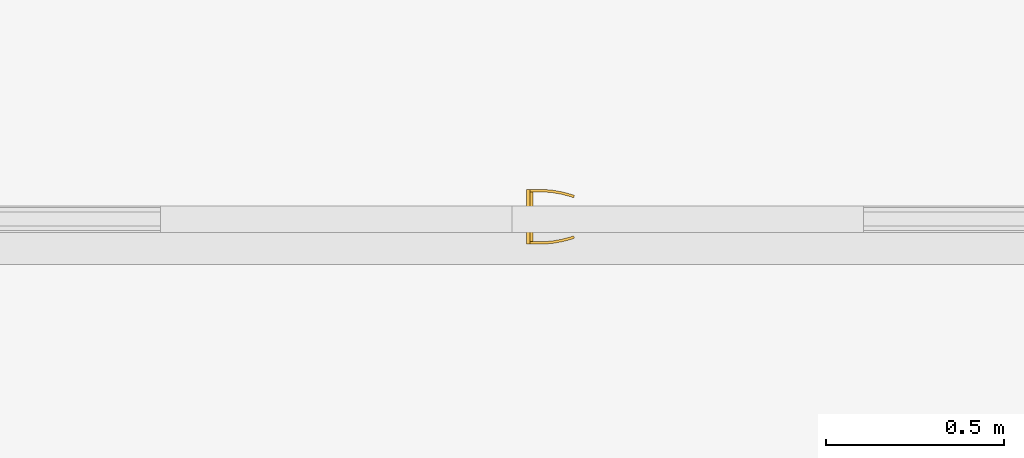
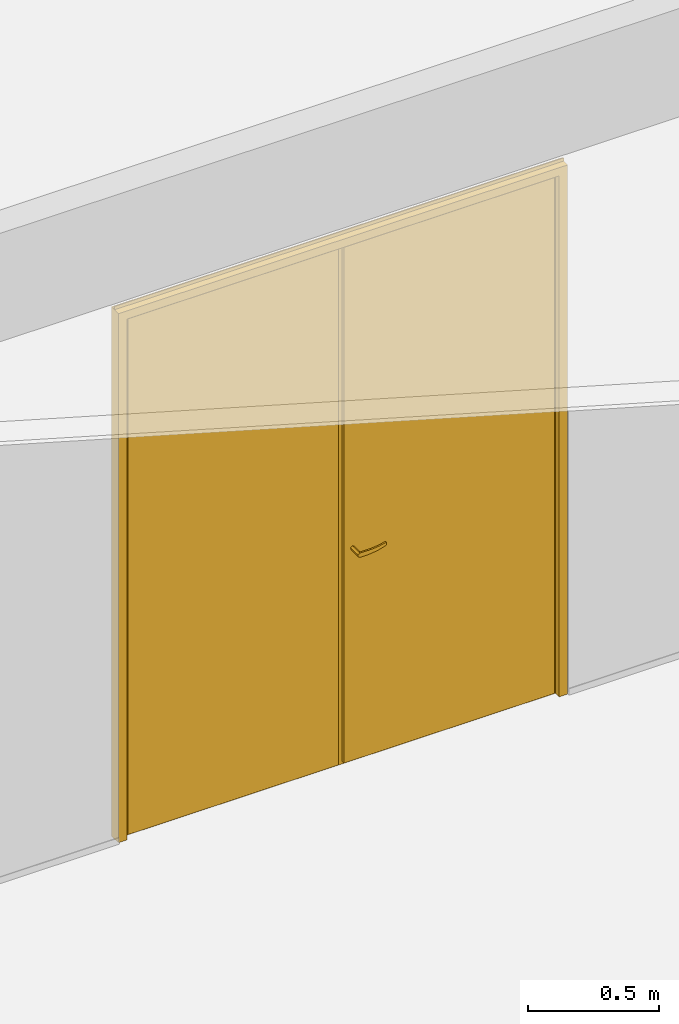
# One storey, part 31 of 43: 1 door, 1 element without a shape of its own.
"""IFC2X3 building model written with IfcOpenShell, lengths in millimetres."""

import ifcopenshell
import ifcopenshell.guid

model = None  # the IFC model being written
_history = None  # IfcOwnerHistory: only IFC2X3 demands one
_inside = {}  # id of a spatial element -> (the spatial element, [elements in it])
_under = {}  # id of a project, library or spatial element -> (it, [spatial elements below it])
_declared = {}  # id of a project -> (the project, [libraries it declares])
_typed = {}  # id of a type object -> (the type object, [elements of that type])
_made_of = {}  # id of a material, layer set ... -> (it, [elements and type objects made of it])


def new_model(schema):
    """Start an empty IFC model of exactly this schema.

    Asked for "IFC4X3", IfcOpenShell would pick the latest addendum, in which some entities
    have other attributes; the version numbers below select the first issue.
    IFC2X3 requires an IfcOwnerHistory on every rooted entity: one is made here for all.
    """
    global model, _history
    if schema == "IFC4X3":
        model = ifcopenshell.file(schema_version=(4, 3, 0, 0))
    else:
        model = ifcopenshell.file(schema=schema)
    _inside.clear()
    _under.clear()
    _declared.clear()
    _typed.clear()
    _made_of.clear()
    _history = None
    if model.schema == "IFC2X3":
        org = make("IfcOrganization", Name="unknown")
        user = make(
            "IfcPersonAndOrganization",
            ThePerson=make("IfcPerson", FamilyName="unknown"),
            TheOrganization=org,
        )
        app = make(
            "IfcApplication",
            ApplicationDeveloper=org,
            Version="unknown",
            ApplicationFullName="unknown",
            ApplicationIdentifier="unknown",
        )
        _history = make(
            "IfcOwnerHistory",
            OwningUser=user,
            OwningApplication=app,
            ChangeAction="ADDED",
            CreationDate=0,
        )
    return model


def make(cls, **values):
    """One entity of the class cls with the attributes given. An attribute that is None is left unset."""
    return model.create_entity(
        cls, **{name: value for name, value in values.items() if value is not None}
    )


def entity(cls, *values):
    """Any entity or typed value of the class cls, its attributes in the order of the schema. None: left unset."""
    e = model.create_entity(cls)
    for i, value in enumerate(values):
        if value is not None:
            e[i] = value
    return e


def rooted(cls, **values):
    """An entity with a GlobalId (a new one), such as an element, a storey or a relation."""
    return make(cls, GlobalId=ifcopenshell.guid.new(), OwnerHistory=_history, **values)


def si_unit(unit_type, name, prefix=None):
    """IfcSIUnit, for example si_unit("LENGTHUNIT", "METRE", prefix="MILLI")."""
    return make("IfcSIUnit", UnitType=unit_type, Prefix=prefix, Name=name)


def converted_unit(unit_type, name, factor, base, dimensions=None, offset=None):
    """IfcConversionBasedUnit, such as the inch: factor (a typed value) times the base unit."""
    return make(
        "IfcConversionBasedUnit"
        if offset is None
        else "IfcConversionBasedUnitWithOffset",
        ConversionOffset=offset,
        Dimensions=None
        if dimensions is None
        else entity("IfcDimensionalExponents", *dimensions),
        UnitType=unit_type,
        Name=name,
        ConversionFactor=make(
            "IfcMeasureWithUnit", ValueComponent=factor, UnitComponent=base
        ),
    )


def derived_unit(unit_type, elements):
    """IfcDerivedUnit: a product of units, each with its exponent."""
    return make(
        "IfcDerivedUnit",
        Elements=[
            make("IfcDerivedUnitElement", Unit=unit, Exponent=power)
            for unit, power in elements
        ],
        UnitType=unit_type,
    )


def money_unit(currency):
    """IfcMonetaryUnit."""
    return make("IfcMonetaryUnit", Currency=currency)


def assignment(units):
    """IfcUnitAssignment: the units of a project."""
    return None if units is None else make("IfcUnitAssignment", Units=units)


def point(xyz):
    """IfcCartesianPoint."""
    return None if xyz is None else make("IfcCartesianPoint", Coordinates=xyz)


def direction(xyz):
    """IfcDirection."""
    return None if xyz is None else make("IfcDirection", DirectionRatios=xyz)


def frame(location, z_axis=None, x_axis=None):
    """IfcAxis2Placement3D, a coordinate frame: its origin and axes. An axis left out is left unset."""
    return make(
        "IfcAxis2Placement3D",
        Location=point(location),
        Axis=direction(z_axis),
        RefDirection=direction(x_axis),
    )


def origin_with_axes():
    """The frame at (0, 0, 0) with the z axis (0, 0, 1) and the x axis (1, 0, 0) written out."""
    return frame((0.0, 0.0, 0.0), z_axis=(0.0, 0.0, 1.0), x_axis=(1.0, 0.0, 0.0))


def place(relative_to, where):
    """IfcLocalPlacement: puts the frame where relative to a parent placement (None: the world)."""
    return make(
        "IfcLocalPlacement", PlacementRelTo=relative_to, RelativePlacement=where
    )


def context(
    kind, dimensions, precision=None, world=None, true_north=None, identifier=None
):
    """IfcGeometricRepresentationContext, for example the 3D "Model" context."""
    return make(
        "IfcGeometricRepresentationContext",
        ContextIdentifier=identifier,
        ContextType=kind,
        CoordinateSpaceDimension=dimensions,
        Precision=precision,
        WorldCoordinateSystem=world,
        TrueNorth=true_north,
    )


def subcontext(parent, identifier, kind, view, scale=None):
    """IfcGeometricRepresentationSubContext, for example "Body" below "Model"."""
    return make(
        "IfcGeometricRepresentationSubContext",
        ContextIdentifier=identifier,
        ContextType=kind,
        ParentContext=parent,
        TargetScale=scale,
        TargetView=view,
    )


def project(units=None, contexts=None):
    """IfcProject with its units and contexts."""
    return rooted(
        "IfcProject",
        Name="project",
        RepresentationContexts=contexts,
        UnitsInContext=assignment(units),
    )


def spatial(cls, under=None, at=None, **own):
    """A site, building, storey or space (cls), placed at a placement, below another one or the project."""
    s = rooted(cls, ObjectPlacement=at, **own)
    if under is not None:
        _under.setdefault(under.id(), (under, []))[1].append(s)
    return s


def faces_of(points, faces, orient=None, outer=None):
    """IfcFace entities. A face is a list of loops; a loop is a list of indices into points, from 0.

    orient and outer hold one flag for each loop. By default every Orientation is true, the
    first loop of a face is its IfcFaceOuterBound and the others are IfcFaceBound.
    """
    made = []
    for i, loops in enumerate(faces):
        bounds = []
        for j, loop in enumerate(loops):
            is_outer = j == 0 if outer is None else outer[i][j]
            bounds.append(
                make(
                    "IfcFaceOuterBound" if is_outer else "IfcFaceBound",
                    Bound=make("IfcPolyLoop", Polygon=[points[k] for k in loop]),
                    Orientation=True if orient is None else orient[i][j],
                )
            )
        made.append(make("IfcFace", Bounds=bounds))
    return made


def open_shell(faces, orient=None, outer=None):
    """The faces of one IfcOpenShell. surface_model builds it on its shared points."""
    return ("IfcOpenShell", faces, orient, outer)


def faceted_brep(points, faces, orient=None, outer=None, voids=None):
    """IfcFacetedBrep: a solid bounded by flat faces; with voids (closed shells), ...WithVoids."""
    shared = [point(p) for p in points]
    hull = make("IfcClosedShell", CfsFaces=faces_of(shared, faces, orient, outer))
    if voids is None:
        return make("IfcFacetedBrep", Outer=hull)
    return make(
        "IfcFacetedBrepWithVoids",
        Outer=hull,
        Voids=[
            make(cls, CfsFaces=faces_of(shared, fs, o, b)) for cls, fs, o, b in voids
        ],
    )


def surface_model(cls, points, shells):
    """IfcFaceBasedSurfaceModel or IfcShellBasedSurfaceModel (cls): surfaces that need not close."""
    shared = [point(p) for p in points]
    made = [make(c, CfsFaces=faces_of(shared, fs, o, b)) for c, fs, o, b in shells]
    if cls == "IfcFaceBasedSurfaceModel":
        return make(cls, FbsmFaces=made)
    return make(cls, SbsmBoundary=made)


def shape(context_of_items, identifier, shape_type, items):
    """IfcShapeRepresentation: the items that make up one representation, for example the "Body"."""
    return make(
        "IfcShapeRepresentation",
        ContextOfItems=context_of_items,
        RepresentationIdentifier=identifier,
        RepresentationType=shape_type,
        Items=items,
    )


def material(Name=None, Category=None):
    """IfcMaterial."""
    return make("IfcMaterial", Name=Name, Category=Category)


def material_list(materials):
    """IfcMaterialList."""
    return make("IfcMaterialList", Materials=materials)


def made_of(thing, what):
    """Note that an element or type object is made of a material, layer set ...; save() writes the relation."""
    if what is not None:
        _made_of.setdefault(what.id(), (what, []))[1].append(thing)
    return thing


def type_object(cls, material=None, **own):
    """A type object (cls), such as IfcWallType, which elements share."""
    return made_of(rooted(cls, **own), material)


def element(
    cls,
    number,
    at=None,
    inside=None,
    cuts=None,
    type_object=None,
    material=None,
    context=None,
    identifier="Body",
    shape_type=None,
    held_by="IfcProductDefinitionShape",
    body=None,
    shapes=None,
    **own,
):
    """One element of the class cls, such as IfcWall. Its Tag is "e" and its number.

    at: its placement. inside: the storey or other place that contains it. cuts: it is an
    opening in that element (IfcRelVoidsElement). A single representation is given by context,
    identifier, shape_type and body (its items); several are given by shapes. held_by: the class
    of the entity that holds the representations. save() writes the other relations.
    """
    e = rooted(cls, Tag="e%d" % number, ObjectPlacement=at, **own)
    if body is not None:
        shapes = [shape(context, identifier, shape_type, body)]
    if shapes is not None:
        e.Representation = make(held_by, Representations=shapes)
    if inside is not None:
        _inside.setdefault(inside.id(), (inside, []))[1].append(e)
    if cuts is not None:
        rooted(
            "IfcRelVoidsElement", RelatingBuildingElement=cuts, RelatedOpeningElement=e
        )
    if type_object is not None:
        _typed.setdefault(type_object.id(), (type_object, []))[1].append(e)
    return made_of(e, material)


def aggregate(whole, parts):
    """IfcRelAggregates: a whole, such as a stair, and the parts it consists of."""
    return rooted("IfcRelAggregates", RelatingObject=whole, RelatedObjects=parts)


def save(model, path):
    """Write the relations noted so far, then the file.

    IfcRelAggregates (storeys below a building ...), IfcRelContainedInSpatialStructure (elements
    in a storey), IfcRelDefinesByType, IfcRelAssociatesMaterial and IfcRelDeclares: one each for
    every whole, place, type object, material and project.
    """
    for whole, parts in _under.values():
        aggregate(whole, parts)
    for where, things in _inside.values():
        rooted(
            "IfcRelContainedInSpatialStructure",
            RelatedElements=things,
            RelatingStructure=where,
        )
    for kind, things in _typed.values():
        rooted("IfcRelDefinesByType", RelatedObjects=things, RelatingType=kind)
    for what, things in _made_of.values():
        rooted("IfcRelAssociatesMaterial", RelatedObjects=things, RelatingMaterial=what)
    for by, libraries in _declared.values():
        rooted("IfcRelDeclares", RelatingContext=by, RelatedDefinitions=libraries)
    model.write(path)


model = new_model("IFC2X3")

# Units and contexts
model_context = context("Model", 3, precision=0.01, world=origin_with_axes(), true_north=direction((0.0, 1.0)))
body_context = subcontext(model_context, "Body", "Model", "MODEL_VIEW")
ifc_project = project(units=[si_unit("LENGTHUNIT", "METRE", prefix="MILLI"), si_unit("AREAUNIT", "SQUARE_METRE"), si_unit("VOLUMEUNIT", "CUBIC_METRE"), converted_unit("PLANEANGLEUNIT", "DEGREE", entity("IfcPlaneAngleMeasure", 0.0174532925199), si_unit("PLANEANGLEUNIT", "RADIAN"), dimensions=[0, 0, 0, 0, 0, 0, 0]), si_unit("SOLIDANGLEUNIT", "STERADIAN"), money_unit("EUR"), converted_unit("TIMEUNIT", "Year", entity("IfcTimeMeasure", 31556926.0), si_unit("TIMEUNIT", "SECOND"), dimensions=[0, 0, 1, 0, 0, 0, 0]), si_unit("MASSUNIT", "GRAM", prefix="KILO"), si_unit("THERMODYNAMICTEMPERATUREUNIT", "DEGREE_CELSIUS"), si_unit("LUMINOUSINTENSITYUNIT", "LUMEN"), si_unit("ENERGYUNIT", "JOULE", prefix="MEGA"), derived_unit("THERMALCONDUCTANCEUNIT", [(si_unit("POWERUNIT", "WATT"), 1), (si_unit("LENGTHUNIT", "METRE"), -1), (si_unit("THERMODYNAMICTEMPERATUREUNIT", "KELVIN"), -1)]), derived_unit("SPECIFICHEATCAPACITYUNIT", [(si_unit("ENERGYUNIT", "JOULE"), 1), (si_unit("MASSUNIT", "GRAM", prefix="KILO"), -1), (si_unit("THERMODYNAMICTEMPERATUREUNIT", "KELVIN"), -1)]), derived_unit("MASSDENSITYUNIT", [(si_unit("MASSUNIT", "GRAM", prefix="KILO"), 1), (si_unit("VOLUMEUNIT", "CUBIC_METRE"), -1)])], contexts=[model_context])

# Site, building, storey
site_placement = place(None, origin_with_axes())
site = spatial("IfcSite", under=ifc_project, at=site_placement, Name="L.Koidula tn 11b", CompositionType="ELEMENT")
building_placement = place(site_placement, origin_with_axes())
building = spatial("IfcBuilding", under=site, at=building_placement, Name="Rakvere Riigigümnaasium", CompositionType="ELEMENT")
storey_placement = place(building_placement, frame((0.0, 0.0, 6665.0), z_axis=(0.0, 0.0, 1.0), x_axis=(1.0, 0.0, 0.0)))
storey = spatial("IfcBuildingStorey", under=building, at=storey_placement, Name="3.korrus +6,66", CompositionType="ELEMENT", Elevation=6665.0)

# Curtain wall, door
curtain_wall_type = type_object("IfcCurtainWallType", Name="Curtain Wall Type", PredefinedType="NOTDEFINED")
curtain_wall_placement = place(storey_placement, frame((45254.9999955, 28178.4554945, 0.0), z_axis=(0.0, 0.0, 1.0), x_axis=(1.0, 0.0, 0.0)))
curtain_wall = element("IfcCurtainWall", 1, at=curtain_wall_placement, inside=storey, type_object=curtain_wall_type, Name="SKLF-26")
ifc_material_1 = material(Name="Alumiinium.")
ifc_material_2 = material(Name="VKR-05_Klaas")
ifc_material_3 = material(Name="ET-07_Teras - Roostevaba")
ifc_material_list = material_list([ifc_material_1, ifc_material_2, ifc_material_3])
door_style = type_object("IfcDoorStyle", Name="988 x 2475 x -5", ConstructionType="NOTDEFINED", OperationType="NOTDEFINED", ParameterTakesPrecedence=False, Sizeable=False)
door_placement = place(curtain_wall_placement, frame((-2401.0, 0.0, 1244.99992109), z_axis=(0.0, 0.0, 1.0), x_axis=(1.0, 0.0, 0.0)))
door = element("IfcDoor", 2, at=door_placement, type_object=door_style, material=ifc_material_list, Name="Panel-Siseklaasf-005", ObjectType="DOOR", context=body_context, shape_type="SurfaceModel", body=[
    faceted_brep([(-987.999993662, 7.5, -1244.99992109), (-987.999993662, 7.5, 1214.99991405), (-987.999993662, 21.5, 1214.99991405), (-987.999993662, 21.5, -1244.99992109), (-941.999993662, 7.5, -1244.99992109), (-941.999993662, 7.5, 1168.99991405), (-941.999993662, 21.5, 1168.99991405), (-941.999993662, 21.5, -1244.99992109)], [[[0, 1, 2, 3]], [[0, 4, 5, 1]], [[1, 5, 6, 2]], [[3, 2, 6, 7]], [[4, 0, 3, 7]], [[5, 4, 7, 6]]]),
    faceted_brep([(988.0, 7.5, 1214.99991405), (942.0, 7.5, 1168.99991405), (942.0, 21.5, 1168.99991405), (988.0, 21.5, 1214.99991405), (-987.999993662, 7.5, 1214.99991405), (-941.999993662, 7.5, 1168.99991405), (-941.999993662, 21.5, 1168.99991405), (-987.999993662, 21.5, 1214.99991405)], [[[0, 1, 2, 3]], [[0, 4, 5, 1]], [[1, 5, 6, 2]], [[3, 2, 6, 7]], [[4, 0, 3, 7]], [[5, 4, 7, 6]]]),
    faceted_brep([(988.0, 7.5, -1244.99992109), (942.0, 7.5, -1244.99992109), (942.0, 21.5, -1244.99992109), (988.0, 21.5, -1244.99992109), (988.0, 7.5, 1214.99991405), (942.0, 7.5, 1168.99991405), (942.0, 21.5, 1168.99991405), (988.0, 21.5, 1214.99991405)], [[[0, 1, 2, 3]], [[0, 4, 5, 1]], [[1, 5, 6, 2]], [[3, 2, 6, 7]], [[4, 0, 3, 7]], [[5, 4, 7, 6]]]),
    faceted_brep([(-987.999993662, -32.5, -1244.99992109), (-987.999993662, -32.5, 1214.99991405), (-987.999993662, 7.5, 1214.99991405), (-987.999993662, 7.5, -1244.99992109), (-949.999993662, -32.5, -1244.99992109), (-949.999993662, -32.5, 1176.99991405), (-949.999993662, 7.5, 1176.99991405), (-949.999993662, 7.5, -1244.99992109)], [[[0, 1, 2, 3]], [[0, 4, 5, 1]], [[1, 5, 6, 2]], [[3, 2, 6, 7]], [[4, 0, 3, 7]], [[5, 4, 7, 6]]]),
    faceted_brep([(988.0, -32.5, 1214.99991405), (950.0, -32.5, 1176.99991405), (950.0, 7.5, 1176.99991405), (988.0, 7.5, 1214.99991405), (-987.999993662, -32.5, 1214.99991405), (-949.999993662, -32.5, 1176.99991405), (-949.999993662, 7.5, 1176.99991405), (-987.999993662, 7.5, 1214.99991405)], [[[0, 1, 2, 3]], [[0, 4, 5, 1]], [[1, 5, 6, 2]], [[3, 2, 6, 7]], [[4, 0, 3, 7]], [[5, 4, 7, 6]]]),
    faceted_brep([(988.0, -32.5, -1244.99992109), (950.0, -32.5, -1244.99992109), (950.0, 7.5, -1244.99992109), (988.0, 7.5, -1244.99992109), (988.0, -32.5, 1214.99991405), (950.0, -32.5, 1176.99991405), (950.0, 7.5, 1176.99991405), (988.0, 7.5, 1214.99991405)], [[[0, 1, 2, 3]], [[0, 4, 5, 1]], [[1, 5, 6, 2]], [[3, 2, 6, 7]], [[4, 0, 3, 7]], [[5, 4, 7, 6]]]),
    faceted_brep([(-987.999993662, -2.5, 1229.99991757), (988.0, -2.5, 1229.99991757), (988.0, 2.5, 1229.99991757), (-987.999993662, 2.5, 1229.99991757), (-987.999993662, -2.5, 1214.99991405), (988.0, -2.5, 1214.99991405), (988.0, 2.5, 1214.99991405), (-987.999993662, 2.5, 1214.99991405)], [[[0, 1, 2, 3]], [[0, 4, 5, 1]], [[1, 5, 6, 2]], [[3, 2, 6, 7]], [[4, 0, 3, 7]], [[5, 4, 7, 6]]]),
    faceted_brep([(938.0, 7.5, -1232.99992109), (938.0, -4.5, -1232.99992109), (938.0, -4.5, 1164.99991405), (938.0, 7.5, 1164.99991405), (950.0, 7.5, -1244.99992109), (950.0, -4.5, -1244.99992109), (950.0, -4.5, 1176.99991405), (950.0, 7.5, 1176.99991405)], [[[0, 1, 2, 3]], [[4, 5, 1, 0]], [[1, 5, 6, 2]], [[3, 2, 6, 7]], [[0, 3, 7, 4]], [[7, 6, 5, 4]]]),
    faceted_brep([(3.16914849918e-06, 7.5, -1244.99992109), (3.16914849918e-06, -4.5, -1244.99992109), (3.16914849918e-06, -4.5, 1176.99991405), (3.16914849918e-06, 7.5, 1176.99991405), (12.0000031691, 7.5, -1232.99992109), (12.0000031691, -4.5, -1232.99992109), (12.0000031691, -4.5, 1164.99991405), (12.0000031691, 7.5, 1164.99991405)], [[[0, 1, 2, 3]], [[4, 5, 1, 0]], [[1, 5, 6, 2]], [[3, 2, 6, 7]], [[0, 3, 7, 4]], [[7, 6, 5, 4]]]),
    faceted_brep([(3.16914849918e-06, 7.5, -1244.99992109), (3.16914849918e-06, -4.5, -1244.99992109), (12.0000031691, -4.5, -1232.99992109), (12.0000031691, 7.5, -1232.99992109), (950.0, 7.5, -1244.99992109), (950.0, -4.5, -1244.99992109), (938.0, -4.5, -1232.99992109), (938.0, 7.5, -1232.99992109)], [[[0, 1, 2, 3]], [[4, 5, 1, 0]], [[1, 5, 6, 2]], [[3, 2, 6, 7]], [[0, 3, 7, 4]], [[7, 6, 5, 4]]]),
    faceted_brep([(950.0, 7.5, 1176.99991405), (950.0, -4.5, 1176.99991405), (938.0, -4.5, 1164.99991405), (938.0, 7.5, 1164.99991405), (3.16914849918e-06, 7.5, 1176.99991405), (3.16914849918e-06, -4.5, 1176.99991405), (12.0000031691, -4.5, 1164.99991405), (12.0000031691, 7.5, 1164.99991405)], [[[0, 1, 2, 3]], [[4, 5, 1, 0]], [[1, 5, 6, 2]], [[3, 2, 6, 7]], [[0, 3, 7, 4]], [[7, 6, 5, 4]]]),
    faceted_brep([(938.0, -2.5, -1232.99992109), (938.0, -18.5, -1232.99992109), (12.0000031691, -18.5, -1232.99992109), (12.0000031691, -2.5, -1232.99992109), (938.0, -2.5, 1164.99991405), (938.0, -18.5, 1164.99991405), (12.0000031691, -18.5, 1164.99991405), (12.0000031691, -2.5, 1164.99991405)], [[[0, 1, 2, 3]], [[4, 5, 1, 0]], [[1, 5, 6, 2]], [[3, 2, 6, 7]], [[0, 3, 7, 4]], [[7, 6, 5, 4]]]),
    faceted_brep([(21.5000031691, -4.5, -184.999921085), (21.5000031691, -7.5, -184.999921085), (78.5000031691, -7.5, -184.999921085), (78.5000031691, -4.5, -184.999921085), (21.5000031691, -4.5, -374.999921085), (21.5000031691, -7.5, -374.999921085), (78.5000031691, -7.5, -374.999921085), (78.5000031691, -4.5, -374.999921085)], [[[0, 1, 2, 3]], [[4, 5, 1, 0]], [[1, 5, 6, 2]], [[3, 2, 6, 7]], [[0, 3, 7, 4]], [[7, 6, 5, 4]]]),
    surface_model("IfcShellBasedSurfaceModel", [(50.0000031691, -68.5, -254.999921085), (50.0000031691, -75.5, -254.999921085), (41.3397491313, -75.5, -249.999921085), (41.3397491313, -68.5, -249.999921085), (75.0000031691, -68.5, -254.999921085), (75.0000031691, -75.5, -254.999921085), (75.0000031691, -75.5, -234.999921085), (50.0000031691, -75.5, -234.999921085), (41.3397491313, -75.5, -239.999921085), (41.3397491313, -68.5, -239.999921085), (50.0000031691, -68.5, -234.999921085), (75.0000031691, -68.5, -234.999921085)], [open_shell([[[0, 1, 2, 3]], [[4, 5, 1, 0]], [[1, 5, 6, 7, 8, 2]], [[3, 2, 8, 9]], [[0, 3, 9, 10, 11, 4]], [[10, 7, 6, 11]], [[9, 8, 7, 10]]])]),
    surface_model("IfcShellBasedSurfaceModel", [(75.0000031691, -68.5, -234.999921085), (88.4039126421, -75.5, -235.392620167), (88.0982860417, -68.5, -235.392620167), (75.0000031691, -75.5, -234.999921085), (115.109719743, -73.1635446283, -236.17801833), (88.0982860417, -68.5, -254.607222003), (75.0000031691, -68.5, -254.999921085), (75.0000031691, -75.5, -254.999921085), (88.4039126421, -75.5, -254.607222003), (115.109719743, -73.1635446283, -253.82182384), (114.195165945, -66.216818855, -236.17801833), (114.195165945, -66.216818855, -253.82182384), (141.510267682, -68.5084157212, -253.036425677), (141.510267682, -68.5084157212, -236.963416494), (139.993746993, -61.6678329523, -236.963416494), (139.993746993, -61.6678329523, -253.036425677), (167.404632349, -61.5700416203, -252.251027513), (167.404632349, -61.5700416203, -237.748814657), (165.297686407, -54.8876628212, -237.748814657), (165.297686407, -54.8876628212, -252.251027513), (175.461207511, -58.6376880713, -251.999921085), (175.461207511, -58.6376880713, -237.999921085), (173.170561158, -52.0221707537, -237.999921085), (173.170561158, -52.0221707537, -251.999921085)], [open_shell([[[0, 1, 2]], [[0, 3, 1]], [[2, 1, 4]], [[0, 2, 5, 6]], [[3, 7, 8, 1]], [[1, 8, 9, 4]], [[2, 4, 10]], [[2, 10, 11, 5]], [[5, 7, 6]], [[5, 8, 7]], [[11, 9, 8]], [[4, 9, 12, 13]], [[10, 4, 13]], [[10, 14, 15, 11]], [[11, 8, 5]], [[15, 9, 11]], [[15, 12, 9]], [[13, 12, 16, 17]], [[10, 13, 14]], [[14, 18, 19, 15]], [[19, 12, 15]], [[19, 16, 12]], [[17, 16, 20, 21]], [[14, 13, 17]], [[14, 17, 18]], [[18, 22, 23, 19]], [[23, 16, 19]], [[23, 20, 16]], [[22, 21, 20, 23]], [[18, 17, 21]], [[18, 21, 22]]])]),
    faceted_brep([(53.7082071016, -17.5, -256.412599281), (54.017224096, -7.5, -257.363655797), (63.0000031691, -7.5, -244.999921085), (62.0000031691, -17.5, -244.999921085), (40.2917992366, -17.5, -252.053344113), (39.4827822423, -7.5, -252.641129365), (39.4827822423, -7.5, -237.358712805), (54.017224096, -7.5, -232.636186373), (53.7082071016, -17.5, -233.58724289), (40.2917992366, -17.5, -237.946498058)], [[[0, 1, 2, 3]], [[4, 5, 1, 0]], [[2, 1, 5, 6, 7]], [[3, 2, 7, 8]], [[3, 8, 9, 4, 0]], [[9, 6, 5, 4]], [[8, 7, 6, 9]]]),
    faceted_brep([(56.1803430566, -11.5, -359.021051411), (56.7983770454, -7.5, -360.923164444), (72.0000031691, -7.5, -339.999921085), (70.0000031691, -11.5, -339.999921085), (33.8196632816, -11.5, -351.755626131), (32.2016292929, -7.5, -352.931196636), (32.2016292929, -7.5, -327.068645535), (56.7983770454, -7.5, -319.076677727), (56.1803430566, -11.5, -320.978790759), (33.8196632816, -11.5, -328.244216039)], [[[0, 1, 2, 3]], [[4, 5, 1, 0]], [[2, 1, 5, 6, 7]], [[3, 2, 7, 8]], [[3, 8, 9, 4, 0]], [[9, 6, 5, 4]], [[8, 7, 6, 9]]]),
    faceted_brep([(52.1631221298, -13.5, -337.657316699), (52.4721391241, -11.5, -338.608373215), (58.0000031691, -11.5, -330.999921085), (57.0000031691, -13.5, -330.999921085), (44.3368842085, -13.5, -335.114417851), (43.5278672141, -11.5, -335.702203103), (43.5278672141, -11.5, -326.297639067), (52.4721391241, -11.5, -323.391468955), (52.1631221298, -13.5, -324.342525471), (44.3368842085, -13.5, -326.885424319)], [[[0, 1, 2, 3]], [[4, 5, 1, 0]], [[2, 1, 5, 6, 7]], [[3, 2, 7, 8]], [[3, 8, 9, 4, 0]], [[9, 6, 5, 4]], [[8, 7, 6, 9]]]),
    faceted_brep([(50.0000031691, -17.5, -234.999921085), (50.0000031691, -68.5, -234.999921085), (59.5105683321, -68.5, -241.909751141), (59.5105683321, -17.5, -241.909751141), (40.4894380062, -17.5, -241.909751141), (40.4894380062, -68.5, -241.909751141), (44.1221506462, -68.5, -253.090091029), (55.8778556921, -68.5, -253.090091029), (55.8778556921, -17.5, -253.090091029), (44.1221506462, -17.5, -253.090091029)], [[[0, 1, 2, 3]], [[4, 5, 1, 0]], [[1, 5, 6, 7, 2]], [[3, 2, 7, 8]], [[0, 3, 8, 9, 4]], [[9, 6, 5, 4]], [[8, 7, 6, 9]]]),
    faceted_brep([(21.5000031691, 7.5, -184.999921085), (78.5000031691, 7.5, -184.999921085), (78.5000031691, 10.5, -184.999921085), (21.5000031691, 10.5, -184.999921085), (21.5000031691, 7.5, -374.999921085), (78.5000031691, 7.5, -374.999921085), (78.5000031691, 10.5, -374.999921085), (21.5000031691, 10.5, -374.999921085)], [[[0, 1, 2, 3]], [[0, 4, 5, 1]], [[1, 5, 6, 2]], [[3, 2, 6, 7]], [[4, 0, 3, 7]], [[5, 4, 7, 6]]]),
    surface_model("IfcShellBasedSurfaceModel", [(50.0000031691, 71.5, -254.999921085), (41.3397491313, 71.5, -249.999921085), (41.3397491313, 78.5, -249.999921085), (50.0000031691, 78.5, -254.999921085), (75.0000031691, 71.5, -254.999921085), (75.0000031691, 71.5, -234.999921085), (50.0000031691, 71.5, -234.999921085), (41.3397491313, 71.5, -239.999921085), (41.3397491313, 78.5, -239.999921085), (50.0000031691, 78.5, -234.999921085), (75.0000031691, 78.5, -234.999921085), (75.0000031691, 78.5, -254.999921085)], [open_shell([[[0, 1, 2, 3]], [[0, 4, 5, 6, 7, 1]], [[1, 7, 8, 2]], [[3, 2, 8, 9, 10, 11]], [[4, 0, 3, 11]], [[6, 5, 10, 9]], [[7, 6, 9, 8]]])]),
    surface_model("IfcShellBasedSurfaceModel", [(75.0000031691, 71.5, -234.999921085), (88.0982860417, 71.5, -235.392620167), (88.4039126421, 78.5, -235.392620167), (75.0000031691, 71.5, -254.999921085), (88.0982860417, 71.5, -254.607222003), (115.109719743, 76.1635446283, -236.17801833), (75.0000031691, 78.5, -234.999921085), (75.0000031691, 78.5, -254.999921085), (114.195165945, 69.2168188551, -253.82182384), (114.195165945, 69.2168188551, -236.17801833), (115.109719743, 76.1635446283, -253.82182384), (88.4039126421, 78.5, -254.607222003), (139.993746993, 64.6678329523, -253.036425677), (139.993746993, 64.6678329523, -236.963416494), (141.510267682, 71.5084157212, -236.963416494), (141.510267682, 71.5084157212, -253.036425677), (165.297686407, 57.8876628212, -252.251027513), (165.297686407, 57.8876628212, -237.748814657), (167.404632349, 64.5700416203, -237.748814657), (167.404632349, 64.5700416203, -252.251027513), (173.170561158, 55.0221707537, -251.999921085), (173.170561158, 55.0221707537, -237.999921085), (175.461207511, 61.6376880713, -237.999921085), (175.461207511, 61.6376880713, -251.999921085)], [open_shell([[[0, 1, 2]], [[0, 3, 4, 1]], [[1, 5, 2]], [[0, 2, 6]], [[4, 3, 7]], [[1, 4, 8, 9]], [[1, 9, 5]], [[2, 5, 10, 11]], [[6, 2, 11, 7]], [[4, 7, 11]], [[8, 4, 11]], [[9, 8, 12, 13]], [[9, 14, 5]], [[5, 14, 15, 10]], [[8, 11, 10]], [[12, 8, 10]], [[13, 12, 16, 17]], [[9, 13, 14]], [[14, 18, 19, 15]], [[12, 10, 15]], [[16, 12, 15]], [[17, 16, 20, 21]], [[13, 17, 18]], [[13, 18, 14]], [[18, 22, 23, 19]], [[16, 15, 19]], [[20, 16, 19]], [[21, 20, 23, 22]], [[17, 21, 22]], [[17, 22, 18]], [[20, 19, 23]]])]),
    faceted_brep([(53.7082071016, 20.5, -256.412599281), (62.0000031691, 20.5, -244.999921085), (63.0000031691, 10.5, -244.999921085), (54.017224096, 10.5, -257.363655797), (40.2917992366, 20.5, -252.053344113), (40.2917992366, 20.5, -237.946498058), (53.7082071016, 20.5, -233.58724289), (54.017224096, 10.5, -232.636186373), (39.4827822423, 10.5, -237.358712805), (39.4827822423, 10.5, -252.641129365)], [[[0, 1, 2, 3]], [[1, 0, 4, 5, 6]], [[1, 6, 7, 2]], [[2, 7, 8, 9, 3]], [[4, 0, 3, 9]], [[5, 4, 9, 8]], [[6, 5, 8, 7]]]),
    faceted_brep([(56.1803430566, 14.5, -359.021051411), (70.0000031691, 14.5, -339.999921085), (72.0000031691, 10.5, -339.999921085), (56.7983770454, 10.5, -360.923164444), (33.8196632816, 14.5, -351.755626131), (33.8196632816, 14.5, -328.244216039), (56.1803430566, 14.5, -320.978790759), (56.7983770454, 10.5, -319.076677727), (32.2016292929, 10.5, -327.068645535), (32.2016292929, 10.5, -352.931196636)], [[[0, 1, 2, 3]], [[1, 0, 4, 5, 6]], [[1, 6, 7, 2]], [[2, 7, 8, 9, 3]], [[4, 0, 3, 9]], [[5, 4, 9, 8]], [[6, 5, 8, 7]]]),
    faceted_brep([(52.1631221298, 16.5, -337.657316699), (57.0000031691, 16.5, -330.999921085), (58.0000031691, 14.5, -330.999921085), (52.4721391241, 14.5, -338.608373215), (44.3368842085, 16.5, -335.114417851), (44.3368842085, 16.5, -326.885424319), (52.1631221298, 16.5, -324.342525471), (52.4721391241, 14.5, -323.391468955), (43.5278672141, 14.5, -326.297639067), (43.5278672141, 14.5, -335.702203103)], [[[0, 1, 2, 3]], [[1, 0, 4, 5, 6]], [[1, 6, 7, 2]], [[2, 7, 8, 9, 3]], [[4, 0, 3, 9]], [[5, 4, 9, 8]], [[6, 5, 8, 7]]]),
    faceted_brep([(50.0000031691, 20.5, -234.999921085), (59.5105683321, 20.5, -241.909751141), (59.5105683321, 71.5, -241.909751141), (50.0000031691, 71.5, -234.999921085), (40.4894380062, 20.5, -241.909751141), (44.1221506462, 20.5, -253.090091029), (55.8778556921, 20.5, -253.090091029), (55.8778556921, 71.5, -253.090091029), (44.1221506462, 71.5, -253.090091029), (40.4894380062, 71.5, -241.909751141)], [[[0, 1, 2, 3]], [[0, 4, 5, 6, 1]], [[1, 6, 7, 2]], [[3, 2, 7, 8, 9]], [[4, 0, 3, 9]], [[5, 4, 9, 8]], [[6, 5, 8, 7]]]),
    faceted_brep([(-11.9999968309, 7.5, -1232.99992109), (-11.9999968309, -4.5, -1232.99992109), (-11.9999968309, -4.5, 1164.99991405), (-11.9999968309, 7.5, 1164.99991405), (3.16914139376e-06, 7.5, -1244.99992109), (3.16914139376e-06, -4.5, -1244.99992109), (3.16914139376e-06, -4.5, 1176.99991405), (3.16914139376e-06, 7.5, 1176.99991405)], [[[0, 1, 2, 3]], [[4, 5, 1, 0]], [[1, 5, 6, 2]], [[3, 2, 6, 7]], [[0, 3, 7, 4]], [[7, 6, 5, 4]]]),
    faceted_brep([(-949.999993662, 7.5, -1244.99992109), (-949.999993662, -4.5, -1244.99992109), (-949.999993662, -4.5, 1176.99991405), (-949.999993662, 7.5, 1176.99991405), (-937.999993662, 7.5, -1232.99992109), (-937.999993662, -4.5, -1232.99992109), (-937.999993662, -4.5, 1164.99991405), (-937.999993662, 7.5, 1164.99991405)], [[[0, 1, 2, 3]], [[4, 5, 1, 0]], [[1, 5, 6, 2]], [[3, 2, 6, 7]], [[0, 3, 7, 4]], [[7, 6, 5, 4]]]),
    faceted_brep([(-949.999993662, 7.5, -1244.99992109), (-949.999993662, -4.5, -1244.99992109), (-937.999993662, -4.5, -1232.99992109), (-937.999993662, 7.5, -1232.99992109), (3.16914139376e-06, 7.5, -1244.99992109), (3.16914139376e-06, -4.5, -1244.99992109), (-11.9999968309, -4.5, -1232.99992109), (-11.9999968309, 7.5, -1232.99992109)], [[[0, 1, 2, 3]], [[4, 5, 1, 0]], [[1, 5, 6, 2]], [[3, 2, 6, 7]], [[0, 3, 7, 4]], [[7, 6, 5, 4]]]),
    faceted_brep([(3.16914139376e-06, 7.5, 1176.99991405), (3.16914139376e-06, -4.5, 1176.99991405), (-11.9999968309, -4.5, 1164.99991405), (-11.9999968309, 7.5, 1164.99991405), (-949.999993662, 7.5, 1176.99991405), (-949.999993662, -4.5, 1176.99991405), (-937.999993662, -4.5, 1164.99991405), (-937.999993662, 7.5, 1164.99991405)], [[[0, 1, 2, 3]], [[4, 5, 1, 0]], [[1, 5, 6, 2]], [[3, 2, 6, 7]], [[0, 3, 7, 4]], [[7, 6, 5, 4]]]),
    faceted_brep([(-11.9999968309, -2.5, -1232.99992109), (-11.9999968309, -18.5, -1232.99992109), (-937.999993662, -18.5, -1232.99992109), (-937.999993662, -2.5, -1232.99992109), (-11.9999968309, -2.5, 1164.99991405), (-11.9999968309, -18.5, 1164.99991405), (-937.999993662, -18.5, 1164.99991405), (-937.999993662, -2.5, 1164.99991405)], [[[0, 1, 2, 3]], [[4, 5, 1, 0]], [[1, 5, 6, 2]], [[3, 2, 6, 7]], [[0, 3, 7, 4]], [[7, 6, 5, 4]]]),
])
aggregate(curtain_wall, [door])

save(model, "model.ifc")
